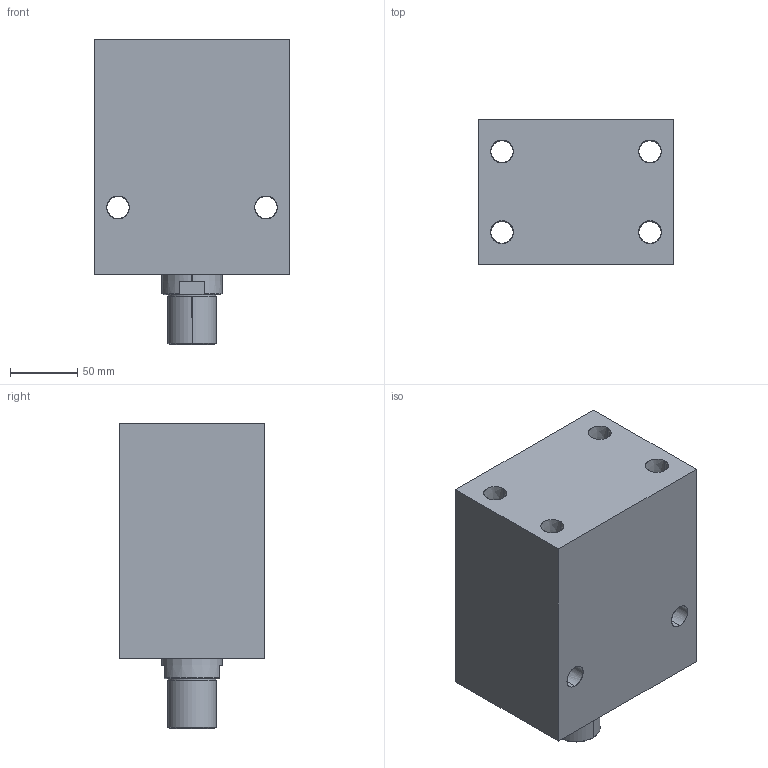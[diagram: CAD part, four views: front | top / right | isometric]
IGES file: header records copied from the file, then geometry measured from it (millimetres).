
Start section: SolidWorks IGES file using analytic representation for surfaces
Global section: file name: D:\karuppas\Clasp\3D model\Block cylinder B01C-Male thread - Copy\B01C-710M\Block cylinder B01C-710M.IGS; native system: SolidWorks 2017; preprocessor: SolidWorks 2017; author: pc; date: 220709.234618; units: millimetre
Bounding box: 145 x 108 x 227 mm (x, y, z)
Surface area: 203131.9 mm2 (no closed solid volume)
Topology: 0 solids, 0 shells, 348 faces, 5248 edges, 5244 vertices
Faces by surface type: bspline 294, revolution 54
